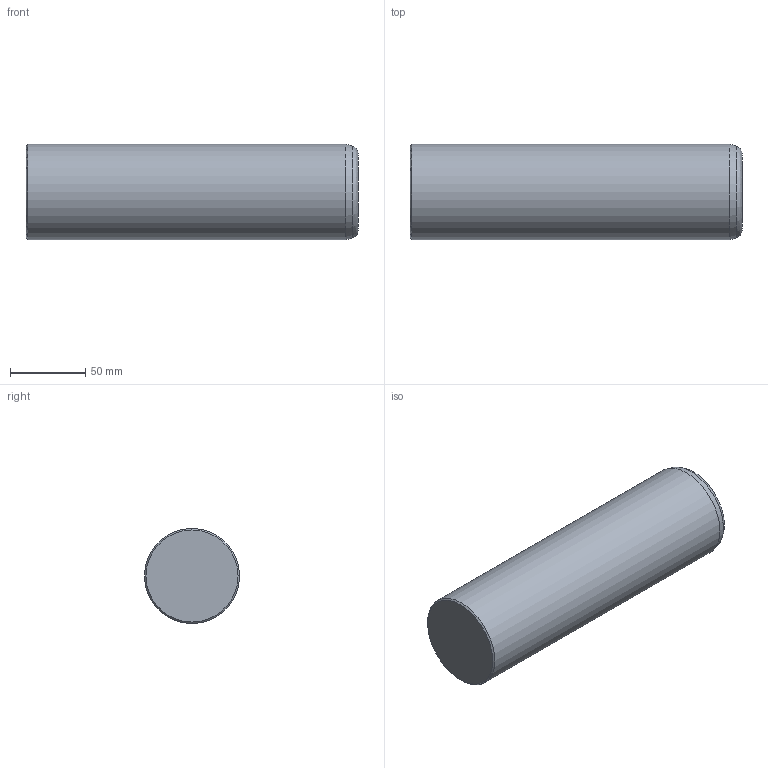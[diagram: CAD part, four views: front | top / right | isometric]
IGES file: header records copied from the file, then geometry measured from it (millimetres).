
Global section: file name: CIS63220.ipt; native system: Autodesk Inventor 2021; preprocessor: unknown; author: SM; date: 20211220.124745; units: millimetre
Bounding box: 220 x 63 x 63 mm (x, y, z)
Volume: 683611.9 mm3; surface area: 49047.5 mm2
Topology: 1 solids, 1 shells, 6 faces, 11 edges, 7 vertices
Faces by surface type: cone 2, plane 2, revolution 1, cylinder 1
Full cylindrical faces by diameter (mm): 63 x1
